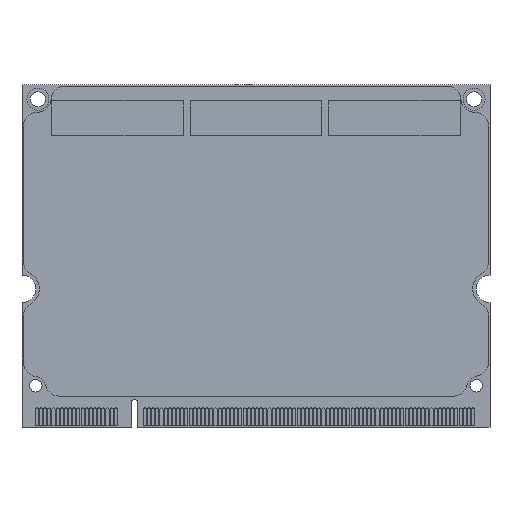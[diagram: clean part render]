
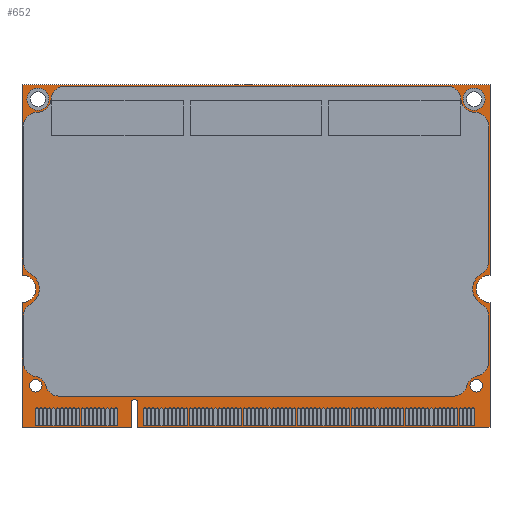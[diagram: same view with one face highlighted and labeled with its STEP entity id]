
A CAD part, top view. The second image highlights one B-rep face of the part: STEP entity #652.
In plain terms, the highlighted planar face has unit normal (0, 0, 1).
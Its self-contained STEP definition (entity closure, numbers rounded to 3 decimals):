
#124=AXIS2_PLACEMENT_3D('Circle Axis2P3D',#122,#123,$) ;
#243=AXIS2_PLACEMENT_3D('Circle Axis2P3D',#241,#242,$) ;
#362=AXIS2_PLACEMENT_3D('Circle Axis2P3D',#360,#361,$) ;
#405=AXIS2_PLACEMENT_3D('Circle Axis2P3D',#403,#404,$) ;
#431=AXIS2_PLACEMENT_3D('Circle Axis2P3D',#429,#430,$) ;
#462=AXIS2_PLACEMENT_3D('Circle Axis2P3D',#460,#461,$) ;
#488=AXIS2_PLACEMENT_3D('Circle Axis2P3D',#486,#487,$) ;
#519=AXIS2_PLACEMENT_3D('Circle Axis2P3D',#517,#518,$) ;
#545=AXIS2_PLACEMENT_3D('Circle Axis2P3D',#543,#544,$) ;
#576=AXIS2_PLACEMENT_3D('Circle Axis2P3D',#574,#575,$) ;
#602=AXIS2_PLACEMENT_3D('Circle Axis2P3D',#600,#601,$) ;
#620=AXIS2_PLACEMENT_3D('Plane Axis2P3D',#617,#618,#619) ;
#50=CARTESIAN_POINT('Vertex',(15.75,0.,0.)) ;
#53=CARTESIAN_POINT('Line Origine',(7.875,0.,0.)) ;
#57=CARTESIAN_POINT('Vertex',(0.,0.,0.)) ;
#88=CARTESIAN_POINT('Vertex',(15.75,3.5,0.)) ;
#91=CARTESIAN_POINT('Line Origine',(15.75,1.75,0.)) ;
#119=CARTESIAN_POINT('Vertex',(16.75,3.5,0.)) ;
#122=CARTESIAN_POINT('Axis2P3D Location',(16.25,3.5,0.)) ;
#150=CARTESIAN_POINT('Vertex',(16.75,0.,0.)) ;
#153=CARTESIAN_POINT('Line Origine',(16.75,1.75,0.)) ;
#176=CARTESIAN_POINT('Vertex',(67.6,0.,0.)) ;
#179=CARTESIAN_POINT('Line Origine',(42.175,0.,0.)) ;
#207=CARTESIAN_POINT('Vertex',(67.6,18.,0.)) ;
#210=CARTESIAN_POINT('Line Origine',(67.6,9.,0.)) ;
#238=CARTESIAN_POINT('Vertex',(67.6,22.,0.)) ;
#241=CARTESIAN_POINT('Axis2P3D Location',(67.6,20.,0.)) ;
#264=CARTESIAN_POINT('Vertex',(67.6,49.5,0.)) ;
#267=CARTESIAN_POINT('Line Origine',(67.6,35.75,0.)) ;
#295=CARTESIAN_POINT('Vertex',(0.,49.5,0.)) ;
#298=CARTESIAN_POINT('Line Origine',(33.8,49.5,0.)) ;
#326=CARTESIAN_POINT('Vertex',(0.,22.,0.)) ;
#329=CARTESIAN_POINT('Line Origine',(0.,35.75,0.)) ;
#357=CARTESIAN_POINT('Vertex',(0.,18.,0.)) ;
#360=CARTESIAN_POINT('Axis2P3D Location',(0.,20.,0.)) ;
#377=CARTESIAN_POINT('Line Origine',(0.,9.,0.)) ;
#398=CARTESIAN_POINT('Vertex',(64.218,47.6,0.)) ;
#403=CARTESIAN_POINT('Axis2P3D Location',(65.3,47.4,0.)) ;
#407=CARTESIAN_POINT('Vertex',(66.382,47.2,0.)) ;
#429=CARTESIAN_POINT('Axis2P3D Location',(65.3,47.4,0.)) ;
#455=CARTESIAN_POINT('Vertex',(1.218,47.6,0.)) ;
#460=CARTESIAN_POINT('Axis2P3D Location',(2.3,47.4,0.)) ;
#464=CARTESIAN_POINT('Vertex',(3.382,47.2,0.)) ;
#486=CARTESIAN_POINT('Axis2P3D Location',(2.3,47.4,0.)) ;
#512=CARTESIAN_POINT('Vertex',(1.1,6.,0.)) ;
#517=CARTESIAN_POINT('Axis2P3D Location',(2.,6.,0.)) ;
#521=CARTESIAN_POINT('Vertex',(2.9,6.,0.)) ;
#543=CARTESIAN_POINT('Axis2P3D Location',(2.,6.,0.)) ;
#569=CARTESIAN_POINT('Vertex',(64.7,6.,0.)) ;
#574=CARTESIAN_POINT('Axis2P3D Location',(65.6,6.,0.)) ;
#578=CARTESIAN_POINT('Vertex',(66.5,6.,0.)) ;
#600=CARTESIAN_POINT('Axis2P3D Location',(65.6,6.,0.)) ;
#617=CARTESIAN_POINT('Axis2P3D Location',(0.,0.,0.)) ;
#54=DIRECTION('Vector Direction',(1.,0.,0.)) ;
#92=DIRECTION('Vector Direction',(0.,1.,0.)) ;
#123=DIRECTION('Axis2P3D Direction',(0.,0.,1.)) ;
#154=DIRECTION('Vector Direction',(0.,-1.,0.)) ;
#180=DIRECTION('Vector Direction',(-1.,0.,0.)) ;
#211=DIRECTION('Vector Direction',(0.,-1.,0.)) ;
#242=DIRECTION('Axis2P3D Direction',(0.,0.,1.)) ;
#268=DIRECTION('Vector Direction',(0.,-1.,0.)) ;
#299=DIRECTION('Vector Direction',(1.,0.,0.)) ;
#330=DIRECTION('Vector Direction',(0.,1.,0.)) ;
#361=DIRECTION('Axis2P3D Direction',(0.,0.,1.)) ;
#378=DIRECTION('Vector Direction',(0.,1.,0.)) ;
#404=DIRECTION('Axis2P3D Direction',(0.,0.,1.)) ;
#430=DIRECTION('Axis2P3D Direction',(0.,0.,1.)) ;
#461=DIRECTION('Axis2P3D Direction',(0.,0.,1.)) ;
#487=DIRECTION('Axis2P3D Direction',(0.,0.,1.)) ;
#518=DIRECTION('Axis2P3D Direction',(0.,0.,1.)) ;
#544=DIRECTION('Axis2P3D Direction',(0.,0.,1.)) ;
#575=DIRECTION('Axis2P3D Direction',(0.,0.,1.)) ;
#601=DIRECTION('Axis2P3D Direction',(0.,0.,1.)) ;
#618=DIRECTION('Axis2P3D Direction',(0.,0.,1.)) ;
#619=DIRECTION('Axis2P3D XDirection',(1.,0.,0.)) ;
#55=VECTOR('Line Direction',#54,1.) ;
#93=VECTOR('Line Direction',#92,1.) ;
#155=VECTOR('Line Direction',#154,1.) ;
#181=VECTOR('Line Direction',#180,1.) ;
#212=VECTOR('Line Direction',#211,1.) ;
#269=VECTOR('Line Direction',#268,1.) ;
#300=VECTOR('Line Direction',#299,1.) ;
#331=VECTOR('Line Direction',#330,1.) ;
#379=VECTOR('Line Direction',#378,1.) ;
#623=ORIENTED_EDGE('',*,*,#59,.T.) ;
#624=ORIENTED_EDGE('',*,*,#95,.T.) ;
#625=ORIENTED_EDGE('',*,*,#126,.T.) ;
#626=ORIENTED_EDGE('',*,*,#157,.T.) ;
#627=ORIENTED_EDGE('',*,*,#183,.T.) ;
#628=ORIENTED_EDGE('',*,*,#214,.T.) ;
#629=ORIENTED_EDGE('',*,*,#245,.T.) ;
#630=ORIENTED_EDGE('',*,*,#271,.T.) ;
#631=ORIENTED_EDGE('',*,*,#302,.T.) ;
#632=ORIENTED_EDGE('',*,*,#333,.T.) ;
#633=ORIENTED_EDGE('',*,*,#364,.T.) ;
#634=ORIENTED_EDGE('',*,*,#381,.T.) ;
#637=ORIENTED_EDGE('',*,*,#409,.F.) ;
#638=ORIENTED_EDGE('',*,*,#433,.F.) ;
#641=ORIENTED_EDGE('',*,*,#466,.F.) ;
#642=ORIENTED_EDGE('',*,*,#490,.F.) ;
#645=ORIENTED_EDGE('',*,*,#523,.F.) ;
#646=ORIENTED_EDGE('',*,*,#547,.F.) ;
#649=ORIENTED_EDGE('',*,*,#580,.F.) ;
#650=ORIENTED_EDGE('',*,*,#604,.F.) ;
#639=FACE_BOUND('',#636,.T.) ;
#643=FACE_BOUND('',#640,.T.) ;
#647=FACE_BOUND('',#644,.T.) ;
#651=FACE_BOUND('',#648,.T.) ;
#652=ADVANCED_FACE('Board',(#635,#639,#643,#647,#651),#621,.T.) ;
#125=CIRCLE('generated circle',#124,0.5) ;
#244=CIRCLE('generated circle',#243,2.) ;
#363=CIRCLE('generated circle',#362,2.) ;
#406=CIRCLE('generated circle',#405,1.1) ;
#432=CIRCLE('generated circle',#431,1.1) ;
#463=CIRCLE('generated circle',#462,1.1) ;
#489=CIRCLE('generated circle',#488,1.1) ;
#520=CIRCLE('generated circle',#519,0.9) ;
#546=CIRCLE('generated circle',#545,0.9) ;
#577=CIRCLE('generated circle',#576,0.9) ;
#603=CIRCLE('generated circle',#602,0.9) ;
#59=EDGE_CURVE('',#58,#51,#56,.T.) ;
#95=EDGE_CURVE('',#51,#89,#94,.T.) ;
#126=EDGE_CURVE('',#89,#120,#125,.F.) ;
#157=EDGE_CURVE('',#120,#151,#156,.T.) ;
#183=EDGE_CURVE('',#151,#177,#182,.F.) ;
#214=EDGE_CURVE('',#177,#208,#213,.F.) ;
#245=EDGE_CURVE('',#208,#239,#244,.F.) ;
#271=EDGE_CURVE('',#239,#265,#270,.F.) ;
#302=EDGE_CURVE('',#265,#296,#301,.F.) ;
#333=EDGE_CURVE('',#296,#327,#332,.F.) ;
#364=EDGE_CURVE('',#327,#358,#363,.F.) ;
#381=EDGE_CURVE('',#358,#58,#380,.F.) ;
#409=EDGE_CURVE('',#399,#408,#406,.T.) ;
#433=EDGE_CURVE('',#408,#399,#432,.T.) ;
#466=EDGE_CURVE('',#456,#465,#463,.T.) ;
#490=EDGE_CURVE('',#465,#456,#489,.T.) ;
#523=EDGE_CURVE('',#513,#522,#520,.T.) ;
#547=EDGE_CURVE('',#522,#513,#546,.T.) ;
#580=EDGE_CURVE('',#570,#579,#577,.T.) ;
#604=EDGE_CURVE('',#579,#570,#603,.T.) ;
#622=EDGE_LOOP('',(#623,#624,#625,#626,#627,#628,#629,#630,#631,#632,#633,#634)) ;
#636=EDGE_LOOP('',(#637,#638)) ;
#640=EDGE_LOOP('',(#641,#642)) ;
#644=EDGE_LOOP('',(#645,#646)) ;
#648=EDGE_LOOP('',(#649,#650)) ;
#635=FACE_OUTER_BOUND('',#622,.T.) ;
#56=LINE('Line',#53,#55) ;
#94=LINE('Line',#91,#93) ;
#156=LINE('Line',#153,#155) ;
#182=LINE('Line',#179,#181) ;
#213=LINE('Line',#210,#212) ;
#270=LINE('Line',#267,#269) ;
#301=LINE('Line',#298,#300) ;
#332=LINE('Line',#329,#331) ;
#380=LINE('Line',#377,#379) ;
#621=PLANE('Plane',#620) ;
#51=VERTEX_POINT('',#50) ;
#58=VERTEX_POINT('',#57) ;
#89=VERTEX_POINT('',#88) ;
#120=VERTEX_POINT('',#119) ;
#151=VERTEX_POINT('',#150) ;
#177=VERTEX_POINT('',#176) ;
#208=VERTEX_POINT('',#207) ;
#239=VERTEX_POINT('',#238) ;
#265=VERTEX_POINT('',#264) ;
#296=VERTEX_POINT('',#295) ;
#327=VERTEX_POINT('',#326) ;
#358=VERTEX_POINT('',#357) ;
#399=VERTEX_POINT('',#398) ;
#408=VERTEX_POINT('',#407) ;
#456=VERTEX_POINT('',#455) ;
#465=VERTEX_POINT('',#464) ;
#513=VERTEX_POINT('',#512) ;
#522=VERTEX_POINT('',#521) ;
#570=VERTEX_POINT('',#569) ;
#579=VERTEX_POINT('',#578) ;
